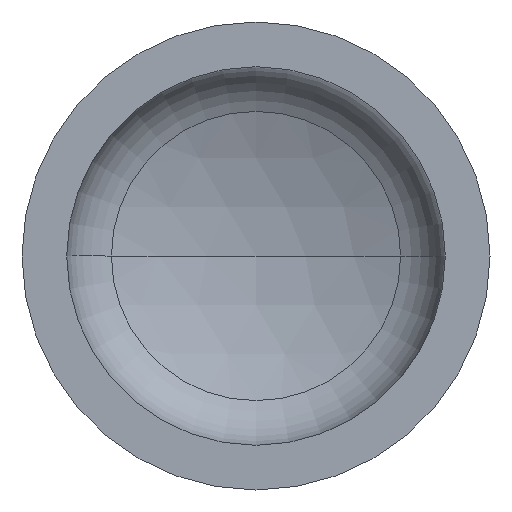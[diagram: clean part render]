
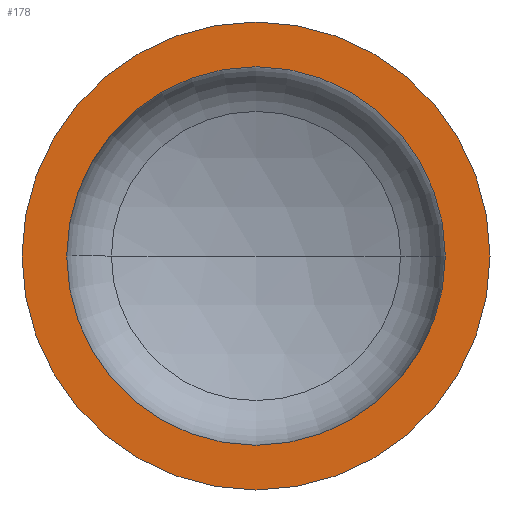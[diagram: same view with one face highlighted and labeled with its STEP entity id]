
A CAD part, front view. The second image highlights one B-rep face of the part: STEP entity #178.
In plain terms, the highlighted planar face has unit normal (0, -1, 0).
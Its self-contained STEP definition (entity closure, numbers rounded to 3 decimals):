
#5 = EDGE_LOOP ( 'NONE', ( #20, #81 ) ) ;
#14 = AXIS2_PLACEMENT_3D ( 'NONE', #151, #318, #322 ) ;
#20 = ORIENTED_EDGE ( 'NONE', *, *, #363, .T. ) ;
#27 = AXIS2_PLACEMENT_3D ( 'NONE', #266, #256, #239 ) ;
#43 = EDGE_LOOP ( 'NONE', ( #69, #62 ) ) ;
#62 = ORIENTED_EDGE ( 'NONE', *, *, #332, .F. ) ;
#69 = ORIENTED_EDGE ( 'NONE', *, *, #125, .F. ) ;
#79 = VERTEX_POINT ( 'NONE', #248 ) ;
#81 = ORIENTED_EDGE ( 'NONE', *, *, #123, .T. ) ;
#92 = VERTEX_POINT ( 'NONE', #246 ) ;
#93 = AXIS2_PLACEMENT_3D ( 'NONE', #305, #302, #311 ) ;
#97 = AXIS2_PLACEMENT_3D ( 'NONE', #358, #339, #366 ) ;
#101 = VERTEX_POINT ( 'NONE', #238 ) ;
#117 = DIRECTION ( 'NONE',  ( 1., 0., 0. ) ) ;
#123 = EDGE_CURVE ( 'NONE', #79, #92, #147, .T. ) ;
#125 = EDGE_CURVE ( 'NONE', #221, #101, #265, .T. ) ;
#144 = CARTESIAN_POINT ( 'NONE',  ( 0., 0., 0. ) ) ;
#145 = DIRECTION ( 'NONE',  ( 0., -1., 0. ) ) ;
#147 = CIRCLE ( 'NONE', #97, 450. ) ;
#151 = CARTESIAN_POINT ( 'NONE',  ( 0., 0., 0. ) ) ;
#169 = AXIS2_PLACEMENT_3D ( 'NONE', #144, #145, #117 ) ;
#178 = ADVANCED_FACE ( 'NONE', ( #371, #181 ), #242, .F. ) ;
#181 = FACE_OUTER_BOUND ( 'NONE', #5, .T. ) ;
#183 = CARTESIAN_POINT ( 'NONE',  ( 364., 0., 0. ) ) ;
#221 = VERTEX_POINT ( 'NONE', #183 ) ;
#238 = CARTESIAN_POINT ( 'NONE',  ( -364., 0., 0. ) ) ;
#239 = DIRECTION ( 'NONE',  ( -1., 0., 0. ) ) ;
#242 = PLANE ( 'NONE',  #27 ) ;
#243 = CIRCLE ( 'NONE', #14, 364. ) ;
#246 = CARTESIAN_POINT ( 'NONE',  ( 450., 0., 0. ) ) ;
#248 = CARTESIAN_POINT ( 'NONE',  ( -450., 0., 0. ) ) ;
#256 = DIRECTION ( 'NONE',  ( 0., 1., 0. ) ) ;
#265 = CIRCLE ( 'NONE', #93, 364. ) ;
#266 = CARTESIAN_POINT ( 'NONE',  ( -450., 0., 0. ) ) ;
#276 = CIRCLE ( 'NONE', #169, 450. ) ;
#302 = DIRECTION ( 'NONE',  ( 0., -1., 0. ) ) ;
#305 = CARTESIAN_POINT ( 'NONE',  ( 0., 0., 0. ) ) ;
#311 = DIRECTION ( 'NONE',  ( 1., 0., 0. ) ) ;
#318 = DIRECTION ( 'NONE',  ( 0., -1., 0. ) ) ;
#322 = DIRECTION ( 'NONE',  ( 1., 0., 0. ) ) ;
#332 = EDGE_CURVE ( 'NONE', #101, #221, #243, .T. ) ;
#339 = DIRECTION ( 'NONE',  ( 0., -1., 0. ) ) ;
#358 = CARTESIAN_POINT ( 'NONE',  ( 0., 0., 0. ) ) ;
#363 = EDGE_CURVE ( 'NONE', #92, #79, #276, .T. ) ;
#366 = DIRECTION ( 'NONE',  ( 1., 0., 0. ) ) ;
#371 = FACE_BOUND ( 'NONE', #43, .T. ) ;
